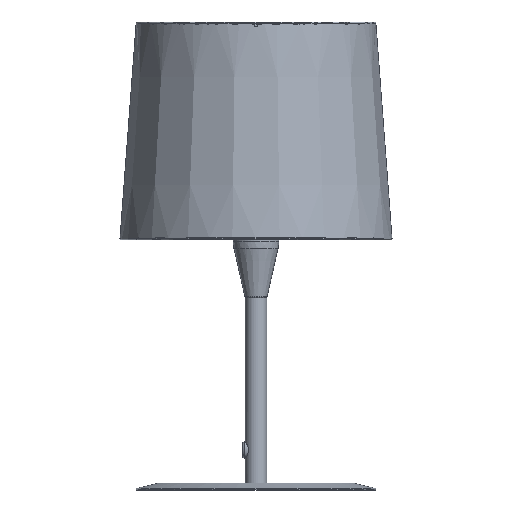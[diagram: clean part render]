
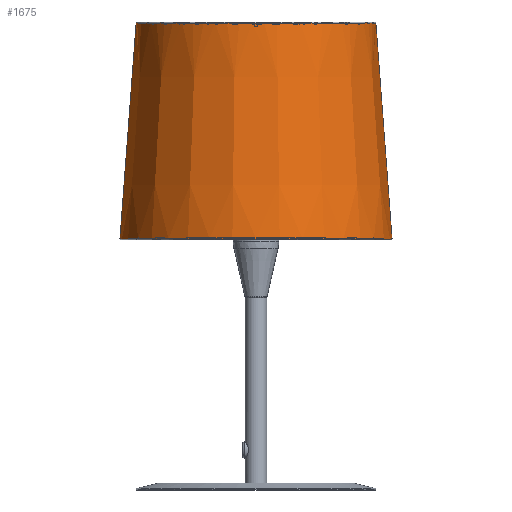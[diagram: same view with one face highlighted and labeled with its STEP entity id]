
A CAD part, left-side view. The second image highlights one B-rep face of the part: STEP entity #1675.
In plain terms, the highlighted conical face has half-angle 4.288 degrees and reference radius 123.44 mm.
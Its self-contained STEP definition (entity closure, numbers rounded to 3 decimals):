
#69=CONICAL_SURFACE('',#1883,123.44,0.075);
#121=B_SPLINE_CURVE_WITH_KNOTS('',3,(#3427,#3428,#3429,#3430,#3431,#3432,
#3433,#3434,#3435,#3436,#3437,#3438,#3439),.UNSPECIFIED.,.F.,.F.,(4,1,1,
1,1,1,1,1,1,1,4),(0.,0.1,0.2,0.3,0.4,0.5,0.6,0.7,0.8,0.9,1.),
 .UNSPECIFIED.);
#271=FACE_OUTER_BOUND('',#397,.T.);
#397=EDGE_LOOP('',(#1414,#1415,#1416,#1417));
#498=LINE('',#3407,#592);
#499=LINE('',#3411,#593);
#592=VECTOR('',#2345,304.8);
#593=VECTOR('',#2348,304.8);
#687=CIRCLE('',#1884,124.925);
#800=VERTEX_POINT('',#3405);
#801=VERTEX_POINT('',#3406);
#802=VERTEX_POINT('',#3408);
#803=VERTEX_POINT('',#3410);
#1004=EDGE_CURVE('',#800,#801,#498,.T.);
#1006=EDGE_CURVE('',#803,#802,#499,.T.);
#1008=EDGE_CURVE('',#800,#802,#687,.T.);
#1009=EDGE_CURVE('',#803,#801,#121,.T.);
#1414=ORIENTED_EDGE('',*,*,#1006,.T.);
#1415=ORIENTED_EDGE('',*,*,#1008,.F.);
#1416=ORIENTED_EDGE('',*,*,#1004,.T.);
#1417=ORIENTED_EDGE('',*,*,#1009,.F.);
#1675=ADVANCED_FACE('',(#271),#69,.T.);
#1883=AXIS2_PLACEMENT_3D('',#3425,#2349,#2350);
#1884=AXIS2_PLACEMENT_3D('',#3426,#2351,#2352);
#2345=DIRECTION('',(0.,0.075,0.997));
#2348=DIRECTION('',(0.,0.075,-0.997));
#2349=DIRECTION('center_axis',(0.,0.,
-1.));
#2350=DIRECTION('ref_axis',(-0.588,-0.809,0.));
#2351=DIRECTION('center_axis',(0.,0.,
-1.));
#2352=DIRECTION('ref_axis',(-0.588,-0.809,0.));
#3405=CARTESIAN_POINT('',(0.,-124.925,1.));
#3406=CARTESIAN_POINT('',(0.,-110.075,199.072));
#3407=CARTESIAN_POINT('',(0.,-124.925,1.));
#3408=CARTESIAN_POINT('',(0.,124.925,1.));
#3410=CARTESIAN_POINT('',(0.,110.075,199.072));
#3411=CARTESIAN_POINT('',(0.,110.075,199.072));
#3425=CARTESIAN_POINT('Origin',(0.,0.,20.807));
#3426=CARTESIAN_POINT('Origin',(0.,0.,
1.));
#3427=CARTESIAN_POINT('Ctrl Pts',(0.,110.075,
199.072));
#3428=CARTESIAN_POINT('Ctrl Pts',(-11.546,110.136,199.072));
#3429=CARTESIAN_POINT('Ctrl Pts',(-34.57,106.396,199.072));
#3430=CARTESIAN_POINT('Ctrl Pts',(-65.776,90.537,199.072));
#3431=CARTESIAN_POINT('Ctrl Pts',(-90.529,65.772,199.072));
#3432=CARTESIAN_POINT('Ctrl Pts',(-106.424,34.58,199.072));
#3433=CARTESIAN_POINT('Ctrl Pts',(-111.901,0.,
199.072));
#3434=CARTESIAN_POINT('Ctrl Pts',(-106.424,-34.58,199.072));
#3435=CARTESIAN_POINT('Ctrl Pts',(-90.529,-65.772,199.072));
#3436=CARTESIAN_POINT('Ctrl Pts',(-65.776,-90.537,199.072));
#3437=CARTESIAN_POINT('Ctrl Pts',(-34.57,-106.396,199.072));
#3438=CARTESIAN_POINT('Ctrl Pts',(-11.546,-110.136,199.072));
#3439=CARTESIAN_POINT('Ctrl Pts',(0.,-110.075,
199.072));
